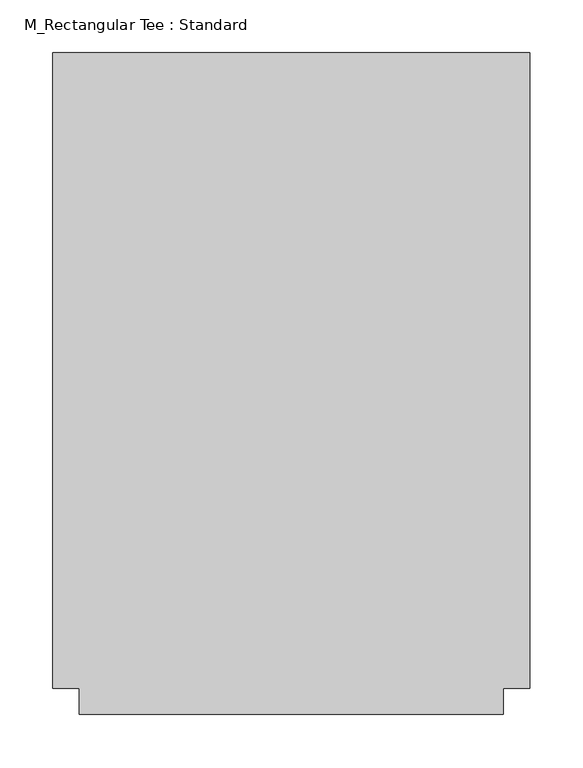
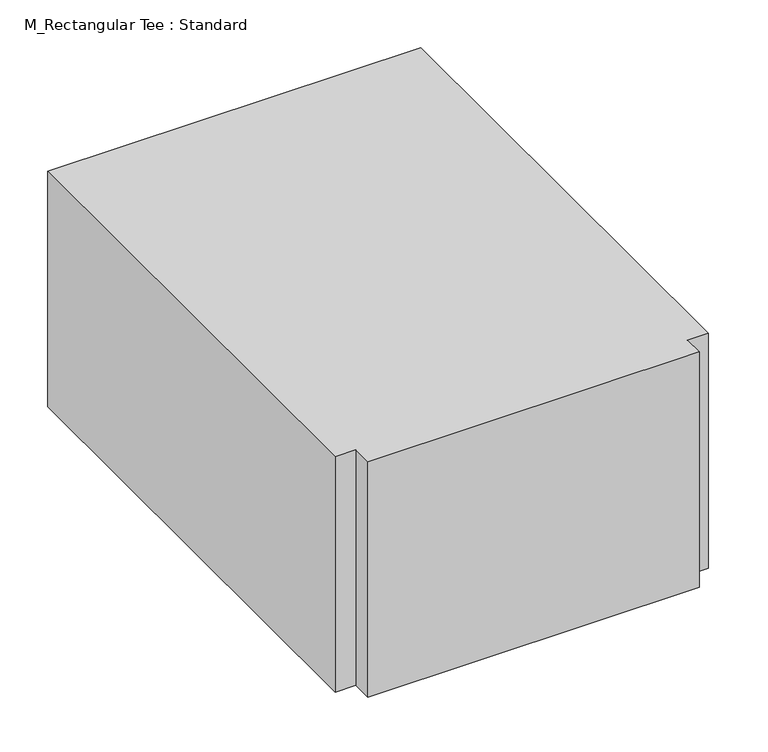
"""IFC4 building model written with IfcOpenShell, lengths in millimetres: duct fitting geometry, M_Rectangular Tee : Standard."""

from ifc_helpers import new_model, si_unit, frame, origin, place, context, project, spatial, polyline, outline, extrude, source, transform, mapped, element, save


def m_rectangular_tee_standard_1939839d(model_context):
    return source(origin(), model_context, "Body", "SweptSolid", [
        extrude(outline(polyline([(-225.0, -300.0), (-225.0, 300.0), (225.0, 300.0), (225.0, -300.0), (200.0, -300.0), (200.0, -325.0), (-200.0, -325.0), (-200.0, -300.0), (-225.0, -300.0)])), frame((0.0, 0.0, -150.0), z_axis=(0.0, 0.0, 1.0), x_axis=(1.0, 0.0, 0.0)), (0.0, 0.0, 1.0), 300.0),
    ])


if __name__ == "__main__":
    model = new_model("IFC4")
    model_context = context("Model", 3, world=origin())
    ifc_project = project(units=[si_unit("LENGTHUNIT", "METRE", prefix="MILLI")], contexts=[model_context])
    site = spatial("IfcSite", under=ifc_project)
    building = spatial("IfcBuilding", under=site)
    placement = place(None, origin())
    m_rectangular_tee_standard_shape = m_rectangular_tee_standard_1939839d(model_context)
    element("IfcDuctFitting", 1, ObjectType="M_Rectangular Tee : Standard", at=placement, inside=building, context=model_context, shape_type="MappedRepresentation", body=[
        mapped(m_rectangular_tee_standard_shape, transform((0.0, 0.0, 0.0), x_axis=(1.0, 0.0, 0.0), y_axis=(0.0, 1.0, 0.0), z_axis=(0.0, 0.0, 1.0))),
    ])
    save(model, "model.ifc")
